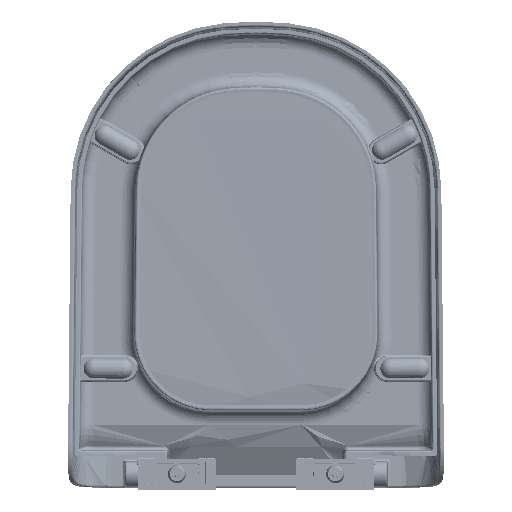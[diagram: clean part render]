
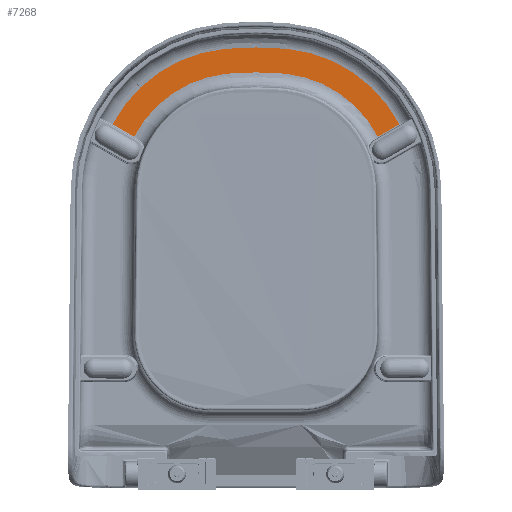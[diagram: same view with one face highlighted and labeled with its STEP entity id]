
A CAD part, front view. The second image highlights one B-rep face of the part: STEP entity #7268.
In plain terms, the highlighted planar face has unit normal (0, -1, 0).
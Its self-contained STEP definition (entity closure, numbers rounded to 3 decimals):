
#2567 = EDGE_LOOP ( 'NONE', ( #66678, #138721, #49066, #107156, #34165, #123196, #14027, #39360, #44181, #3099 ) ) ;
#3099 = ORIENTED_EDGE ( 'NONE', *, *, #148401, .T. ) ;
#5474 = LINE ( 'NONE', #150351, #101669 ) ;
#7268 = ADVANCED_FACE ( 'NONE', ( #9898 ), #117261, .T. ) ;
#9599 = EDGE_CURVE ( 'NONE', #20266, #34757, #64156, .T. ) ;
#9898 = FACE_OUTER_BOUND ( 'NONE', #2567, .T. ) ;
#11759 = CARTESIAN_POINT ( 'NONE',  ( -30.076, 16., 198.387 ) ) ;
#12674 = B_SPLINE_CURVE_WITH_KNOTS ( 'NONE', 3,
 ( #132477, #110503, #26695, #144219 ),
 .UNSPECIFIED., .F., .F.,
 ( 4, 4 ),
 ( 0., 1. ),
 .UNSPECIFIED. ) ;
#14027 = ORIENTED_EDGE ( 'NONE', *, *, #152136, .T. ) ;
#15022 = DIRECTION ( 'NONE',  ( 0., 0., 1. ) ) ;
#18639 = AXIS2_PLACEMENT_3D ( 'NONE', #21476, #140524, #77884 ) ;
#20097 = DIRECTION ( 'NONE',  ( 0., -1., 0. ) ) ;
#20266 = VERTEX_POINT ( 'NONE', #54723 ) ;
#20322 = DIRECTION ( 'NONE',  ( -0.866, 0., -0.5 ) ) ;
#21476 = CARTESIAN_POINT ( 'NONE',  ( 16.58, 16., 61.623 ) ) ;
#26695 = CARTESIAN_POINT ( 'NONE',  ( 19.586, 16., 175.292 ) ) ;
#26698 = CARTESIAN_POINT ( 'NONE',  ( -138.11, 16., 125.788 ) ) ;
#27976 = CARTESIAN_POINT ( 'NONE',  ( -16.58, 16., 61.623 ) ) ;
#29595 = CARTESIAN_POINT ( 'NONE',  ( -16.58, 16., 61.623 ) ) ;
#30116 = CARTESIAN_POINT ( 'NONE',  ( -9.251, 16., 175.604 ) ) ;
#30450 = VERTEX_POINT ( 'NONE', #26698 ) ;
#30625 = EDGE_CURVE ( 'NONE', #83551, #75121, #5474, .T. ) ;
#31250 = CIRCLE ( 'NONE', #38824, 113.414 ) ;
#33972 = CARTESIAN_POINT ( 'NONE',  ( -23.112, 16., 174.898 ) ) ;
#34165 = ORIENTED_EDGE ( 'NONE', *, *, #136988, .F. ) ;
#34177 = CARTESIAN_POINT ( 'NONE',  ( 16.579, 16., 61.623 ) ) ;
#34757 = VERTEX_POINT ( 'NONE', #75467 ) ;
#36219 = CARTESIAN_POINT ( 'NONE',  ( 16.58, 16., 61.623 ) ) ;
#38824 = AXIS2_PLACEMENT_3D ( 'NONE', #29595, #125133, #66375 ) ;
#39360 = ORIENTED_EDGE ( 'NONE', *, *, #58946, .T. ) ;
#40629 = B_SPLINE_CURVE_WITH_KNOTS ( 'NONE', 3,
 ( #11759, #47029, #105008, #94800, #141016, #118322, #119887, #48545 ),
 .UNSPECIFIED., .F., .F.,
 ( 4, 2, 2, 4 ),
 ( 0., 0.25, 0.5, 1. ),
 .UNSPECIFIED. ) ;
#44173 = CARTESIAN_POINT ( 'NONE',  ( -18.497, 16., 175.2 ) ) ;
#44181 = ORIENTED_EDGE ( 'NONE', *, *, #30625, .F. ) ;
#47029 = CARTESIAN_POINT ( 'NONE',  ( -27.579, 16., 198.633 ) ) ;
#48545 = CARTESIAN_POINT ( 'NONE',  ( 0., 16., 199.707 ) ) ;
#48634 = CIRCLE ( 'NONE', #18639, 113.414 ) ;
#49066 = ORIENTED_EDGE ( 'NONE', *, *, #133413, .F. ) ;
#49718 = CARTESIAN_POINT ( 'NONE',  ( -30.076, 16., 198.387 ) ) ;
#52284 = DIRECTION ( 'NONE',  ( 0., 0., 1. ) ) ;
#53878 = CARTESIAN_POINT ( 'NONE',  ( 0., 16., 175.693 ) ) ;
#54723 = CARTESIAN_POINT ( 'NONE',  ( 30.076, 16., 198.387 ) ) ;
#54989 = CARTESIAN_POINT ( 'NONE',  ( 11.135, 16., 199.707 ) ) ;
#57501 = CARTESIAN_POINT ( 'NONE',  ( -25.417, 16., 174.716 ) ) ;
#58946 = EDGE_CURVE ( 'NONE', #91741, #75121, #48634, .T. ) ;
#59524 = AXIS2_PLACEMENT_3D ( 'NONE', #27976, #111812, #52284 ) ;
#59530 = LINE ( 'NONE', #85311, #87503 ) ;
#64156 = B_SPLINE_CURVE_WITH_KNOTS ( 'NONE', 3,
 ( #78442, #77676, #54989, #76916 ),
 .UNSPECIFIED., .F., .F.,
 ( 4, 4 ),
 ( 0., 1. ),
 .UNSPECIFIED. ) ;
#66375 = DIRECTION ( 'NONE',  ( 0., 0., -1. ) ) ;
#66678 = ORIENTED_EDGE ( 'NONE', *, *, #9599, .T. ) ;
#69041 = EDGE_CURVE ( 'NONE', #118401, #34757, #40629, .T. ) ;
#70754 = CARTESIAN_POINT ( 'NONE',  ( -27.717, 16., 174.489 ) ) ;
#72260 = CIRCLE ( 'NONE', #92296, 137.428 ) ;
#72410 = CARTESIAN_POINT ( 'NONE',  ( -117.295, 16., 113.77 ) ) ;
#73538 = DIRECTION ( 'NONE',  ( 0.866, 0., -0.5 ) ) ;
#75121 = VERTEX_POINT ( 'NONE', #153995 ) ;
#75467 = CARTESIAN_POINT ( 'NONE',  ( 0., 16., 199.707 ) ) ;
#76916 = CARTESIAN_POINT ( 'NONE',  ( 0., 16., 199.707 ) ) ;
#77676 = CARTESIAN_POINT ( 'NONE',  ( 21.16, 16., 199.267 ) ) ;
#77884 = DIRECTION ( 'NONE',  ( 0., 0., -1. ) ) ;
#78442 = CARTESIAN_POINT ( 'NONE',  ( 30.076, 16., 198.387 ) ) ;
#81654 = CARTESIAN_POINT ( 'NONE',  ( 138.11, 16., 125.788 ) ) ;
#83551 = VERTEX_POINT ( 'NONE', #81654 ) ;
#85311 = CARTESIAN_POINT ( 'NONE',  ( -117.254, 16., 113.746 ) ) ;
#86933 = VERTEX_POINT ( 'NONE', #127517 ) ;
#87503 = VECTOR ( 'NONE', #73538, 1000. ) ;
#89648 = CARTESIAN_POINT ( 'NONE',  ( -4.625, 16., 175.693 ) ) ;
#91741 = VERTEX_POINT ( 'NONE', #109921 ) ;
#92187 = DIRECTION ( 'NONE',  ( 0., 0., -1. ) ) ;
#92296 = AXIS2_PLACEMENT_3D ( 'NONE', #36219, #124662, #15022 ) ;
#94800 = CARTESIAN_POINT ( 'NONE',  ( -20.073, 16., 199.164 ) ) ;
#97693 = VERTEX_POINT ( 'NONE', #53878 ) ;
#101669 = VECTOR ( 'NONE', #20322, 1000. ) ;
#105008 = CARTESIAN_POINT ( 'NONE',  ( -25.079, 16., 198.832 ) ) ;
#107156 = ORIENTED_EDGE ( 'NONE', *, *, #107353, .T. ) ;
#107353 = EDGE_CURVE ( 'NONE', #30450, #116799, #59530, .T. ) ;
#109921 = CARTESIAN_POINT ( 'NONE',  ( 27.717, 16., 174.489 ) ) ;
#110503 = CARTESIAN_POINT ( 'NONE',  ( 10.347, 16., 175.693 ) ) ;
#111812 = DIRECTION ( 'NONE',  ( 0., 1., 0. ) ) ;
#116799 = VERTEX_POINT ( 'NONE', #72410 ) ;
#117261 = PLANE ( 'NONE',  #152546 ) ;
#118322 = CARTESIAN_POINT ( 'NONE',  ( -10.041, 16., 199.609 ) ) ;
#118401 = VERTEX_POINT ( 'NONE', #49718 ) ;
#119887 = CARTESIAN_POINT ( 'NONE',  ( -5.021, 16., 199.707 ) ) ;
#123196 = ORIENTED_EDGE ( 'NONE', *, *, #149826, .F. ) ;
#124662 = DIRECTION ( 'NONE',  ( 0., -1., 0. ) ) ;
#125133 = DIRECTION ( 'NONE',  ( 0., -1., 0. ) ) ;
#127517 = CARTESIAN_POINT ( 'NONE',  ( -27.717, 16., 174.489 ) ) ;
#132477 = CARTESIAN_POINT ( 'NONE',  ( 0., 16., 175.693 ) ) ;
#133413 = EDGE_CURVE ( 'NONE', #30450, #118401, #152090, .T. ) ;
#136988 = EDGE_CURVE ( 'NONE', #86933, #116799, #31250, .T. ) ;
#138721 = ORIENTED_EDGE ( 'NONE', *, *, #69041, .F. ) ;
#140524 = DIRECTION ( 'NONE',  ( 0., 1., 0. ) ) ;
#141016 = CARTESIAN_POINT ( 'NONE',  ( -17.566, 16., 199.296 ) ) ;
#144219 = CARTESIAN_POINT ( 'NONE',  ( 27.717, 16., 174.489 ) ) ;
#148401 = EDGE_CURVE ( 'NONE', #83551, #20266, #72260, .T. ) ;
#149170 = CARTESIAN_POINT ( 'NONE',  ( 0., 16., 175.693 ) ) ;
#149826 = EDGE_CURVE ( 'NONE', #97693, #86933, #151428, .T. ) ;
#149943 = CARTESIAN_POINT ( 'NONE',  ( -16.187, 16., 175.32 ) ) ;
#150351 = CARTESIAN_POINT ( 'NONE',  ( 117.254, 16., 113.746 ) ) ;
#151428 = B_SPLINE_CURVE_WITH_KNOTS ( 'NONE', 3,
 ( #149170, #89648, #30116, #149943, #44173, #33972, #57501, #70754 ),
 .UNSPECIFIED., .F., .F.,
 ( 4, 2, 2, 4 ),
 ( 0., 0.5, 0.75, 1. ),
 .UNSPECIFIED. ) ;
#152090 = CIRCLE ( 'NONE', #59524, 137.428 ) ;
#152136 = EDGE_CURVE ( 'NONE', #97693, #91741, #12674, .T. ) ;
#152546 = AXIS2_PLACEMENT_3D ( 'NONE', #34177, #20097, #92187 ) ;
#153995 = CARTESIAN_POINT ( 'NONE',  ( 117.295, 16., 113.77 ) ) ;
